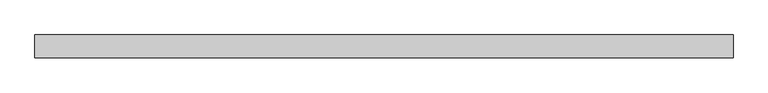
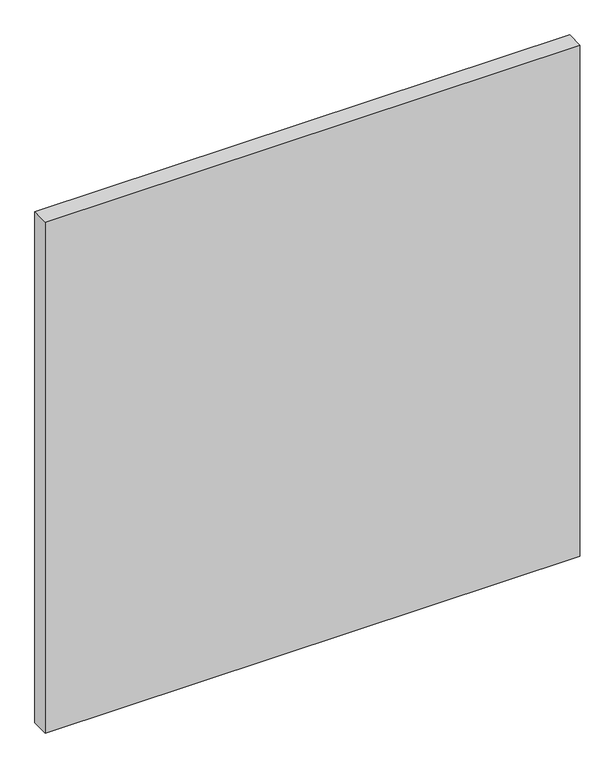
"""IFC4 building model written with IfcOpenShell, lengths in millimetres: proxy geometry."""

from ifc_helpers import new_model, si_unit, origin, origin_with_axes, place, context, project, spatial, polyline, outline, extrude, source, transform, mapped, element, save


def generic_models_caf4bc39(model_context):
    return source(origin(), model_context, "Body", "SweptSolid", [
        extrude(outline(polyline([(3028.6296925, 0.0), (0.0, 0.0), (0.0, 100.0), (3028.6296925, 100.0), (3028.6296925, 0.0)])), origin_with_axes(), (0.0, 0.0, 1.0), 3060.0),
    ])


if __name__ == "__main__":
    model = new_model("IFC4")
    model_context = context("Model", 3, world=origin())
    ifc_project = project(units=[si_unit("LENGTHUNIT", "METRE", prefix="MILLI")], contexts=[model_context])
    site = spatial("IfcSite", under=ifc_project)
    building = spatial("IfcBuilding", under=site)
    placement = place(None, origin())
    generic_models_shape = generic_models_caf4bc39(model_context)
    element("IfcBuildingElementProxy", 1, Name="Generic Models", at=placement, inside=building, context=model_context, shape_type="MappedRepresentation", body=[
        mapped(generic_models_shape, transform((0.0, 0.0, 0.0), x_axis=(1.0, 0.0, 0.0), y_axis=(0.0, 1.0, 0.0), z_axis=(0.0, 0.0, 1.0))),
    ])
    save(model, "model.ifc")
